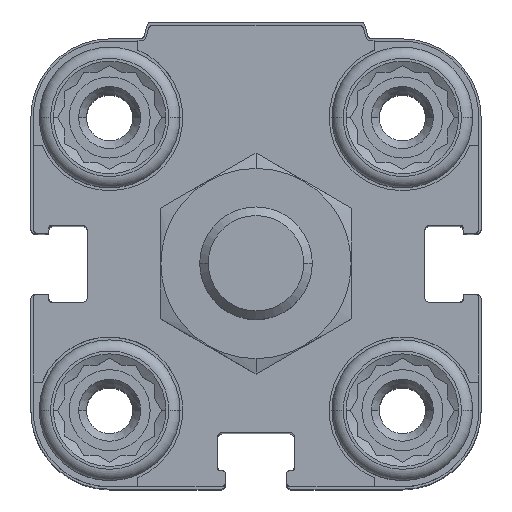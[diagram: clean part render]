
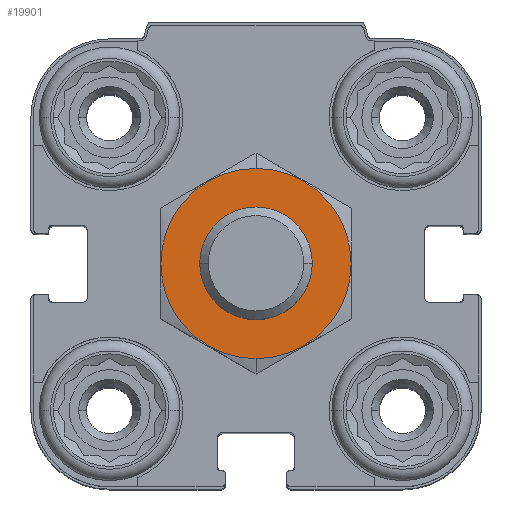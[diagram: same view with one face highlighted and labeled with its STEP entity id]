
A CAD part, top view. The second image highlights one B-rep face of the part: STEP entity #19901.
In plain terms, the highlighted planar face has unit normal (0, 0, 1).
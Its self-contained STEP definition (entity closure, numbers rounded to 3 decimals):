
#354 = ORIENTED_EDGE ( 'NONE', *, *, #15391, .T. ) ;
#1055 = DIRECTION ( 'NONE',  ( 0., 0., -1. ) ) ;
#1275 = CARTESIAN_POINT ( 'NONE',  ( 0., 0., 14.5 ) ) ;
#1403 = EDGE_CURVE ( 'NONE', #19951, #18600, #15773, .T. ) ;
#1448 = FACE_OUTER_BOUND ( 'NONE', #19511, .T. ) ;
#1662 = FACE_BOUND ( 'NONE', #14268, .T. ) ;
#1838 = CIRCLE ( 'NONE', #2806, 8.45 ) ;
#2574 = DIRECTION ( 'NONE',  ( 0., -1., 0. ) ) ;
#2806 = AXIS2_PLACEMENT_3D ( 'NONE', #1275, #1055, #13412 ) ;
#3093 = DIRECTION ( 'NONE',  ( 0., -1., 0. ) ) ;
#3398 = AXIS2_PLACEMENT_3D ( 'NONE', #19408, #17783, #2574 ) ;
#3463 = CARTESIAN_POINT ( 'NONE',  ( 0., -8.45, 14.5 ) ) ;
#3836 = ORIENTED_EDGE ( 'NONE', *, *, #6641, .F. ) ;
#5984 = CARTESIAN_POINT ( 'NONE',  ( 0., 8.45, 14.5 ) ) ;
#6218 = PLANE ( 'NONE',  #15815 ) ;
#6641 = EDGE_CURVE ( 'NONE', #13191, #12248, #1838, .T. ) ;
#9986 = AXIS2_PLACEMENT_3D ( 'NONE', #16969, #13628, #3093 ) ;
#10029 = CARTESIAN_POINT ( 'NONE',  ( 0., 0., 14.5 ) ) ;
#10689 = DIRECTION ( 'NONE',  ( 0., 0., -1. ) ) ;
#10878 = CARTESIAN_POINT ( 'NONE',  ( 0., 0., 14.5 ) ) ;
#11250 = AXIS2_PLACEMENT_3D ( 'NONE', #10029, #18944, #11356 ) ;
#11356 = DIRECTION ( 'NONE',  ( 0., -1., 0. ) ) ;
#12248 = VERTEX_POINT ( 'NONE', #5984 ) ;
#12986 = CARTESIAN_POINT ( 'NONE',  ( 0., -5., 14.5 ) ) ;
#13191 = VERTEX_POINT ( 'NONE', #3463 ) ;
#13412 = DIRECTION ( 'NONE',  ( 0., -1., 0. ) ) ;
#13628 = DIRECTION ( 'NONE',  ( 0., 0., -1. ) ) ;
#13974 = ORIENTED_EDGE ( 'NONE', *, *, #1403, .T. ) ;
#14268 = EDGE_LOOP ( 'NONE', ( #354, #13974 ) ) ;
#15391 = EDGE_CURVE ( 'NONE', #18600, #19951, #19250, .T. ) ;
#15773 = CIRCLE ( 'NONE', #11250, 5. ) ;
#15815 = AXIS2_PLACEMENT_3D ( 'NONE', #10878, #10689, #16862 ) ;
#16422 = ORIENTED_EDGE ( 'NONE', *, *, #19502, .F. ) ;
#16862 = DIRECTION ( 'NONE',  ( 0., -1., 0. ) ) ;
#16969 = CARTESIAN_POINT ( 'NONE',  ( 0., 0., 14.5 ) ) ;
#17783 = DIRECTION ( 'NONE',  ( 0., 0., -1. ) ) ;
#18600 = VERTEX_POINT ( 'NONE', #19582 ) ;
#18944 = DIRECTION ( 'NONE',  ( 0., 0., -1. ) ) ;
#19250 = CIRCLE ( 'NONE', #3398, 5. ) ;
#19384 = CIRCLE ( 'NONE', #9986, 8.45 ) ;
#19408 = CARTESIAN_POINT ( 'NONE',  ( 0., 0., 14.5 ) ) ;
#19502 = EDGE_CURVE ( 'NONE', #12248, #13191, #19384, .T. ) ;
#19511 = EDGE_LOOP ( 'NONE', ( #3836, #16422 ) ) ;
#19582 = CARTESIAN_POINT ( 'NONE',  ( 0., 5., 14.5 ) ) ;
#19901 = ADVANCED_FACE ( 'NONE', ( #1448, #1662 ), #6218, .F. ) ;
#19951 = VERTEX_POINT ( 'NONE', #12986 ) ;
